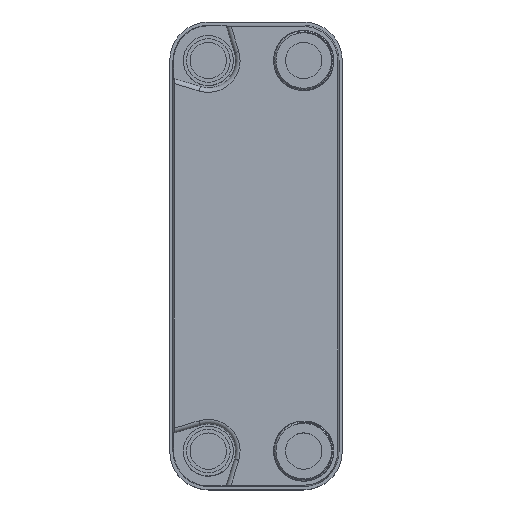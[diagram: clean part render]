
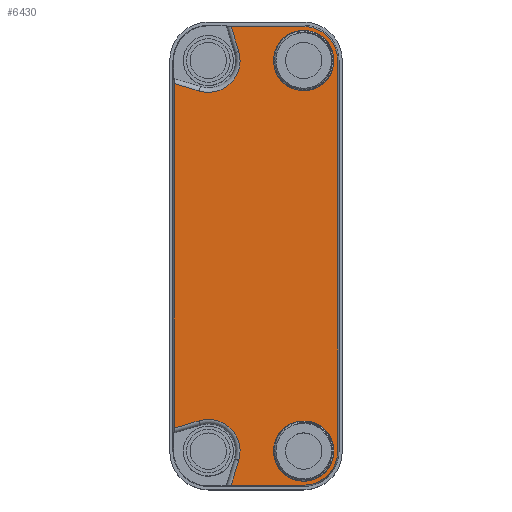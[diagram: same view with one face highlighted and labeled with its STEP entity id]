
A CAD part, top view. The second image highlights one B-rep face of the part: STEP entity #6430.
In plain terms, the highlighted planar face has unit normal (0, 0, 1).
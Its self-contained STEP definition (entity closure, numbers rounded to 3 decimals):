
#6283=CARTESIAN_POINT('',(-21.,83.891,38.));
#6284=DIRECTION('',(0.,0.,-1.));
#6285=DIRECTION('',(0.,1.,0.));
#6286=AXIS2_PLACEMENT_3D('',#6283,#6284,#6285);
#6287=PLANE('',#6286);
#6288=CARTESIAN_POINT('',(21.,98.891,38.));
#6289=VERTEX_POINT('',#6288);
#6290=CARTESIAN_POINT('',(-10.911,98.891,38.));
#6291=VERTEX_POINT('',#6290);
#6292=CARTESIAN_POINT('',(21.,98.891,38.));
#6293=DIRECTION('',(-1.,-0.,0.));
#6294=VECTOR('',#6293,31.911);
#6295=LINE('',#6292,#6294);
#6296=EDGE_CURVE('',#6289,#6291,#6295,.T.);
#6297=ORIENTED_EDGE('',*,*,#6296,.T.);
#6298=CARTESIAN_POINT('',(-7.6,87.944,38.));
#6299=VERTEX_POINT('',#6298);
#6300=CARTESIAN_POINT('',(-10.911,98.891,38.));
#6301=DIRECTION('',(0.29,-0.957,0.));
#6302=VECTOR('',#6301,11.437);
#6303=LINE('',#6300,#6302);
#6304=EDGE_CURVE('',#6291,#6299,#6303,.T.);
#6305=ORIENTED_EDGE('',*,*,#6304,.T.);
#6306=CARTESIAN_POINT('',(-25.053,70.491,38.));
#6307=VERTEX_POINT('',#6306);
#6308=CARTESIAN_POINT('',(-21.,83.891,38.));
#6309=DIRECTION('',(0.,0.,-1.));
#6310=DIRECTION('',(-1.,0.,0.));
#6311=AXIS2_PLACEMENT_3D('',#6308,#6309,#6310);
#6312=CIRCLE('',#6311,14.);
#6313=EDGE_CURVE('',#6299,#6307,#6312,.T.);
#6314=ORIENTED_EDGE('',*,*,#6313,.T.);
#6315=CARTESIAN_POINT('',(-36.,73.802,38.));
#6316=VERTEX_POINT('',#6315);
#6317=CARTESIAN_POINT('',(-25.053,70.491,38.));
#6318=DIRECTION('',(-0.957,0.29,0.));
#6319=VECTOR('',#6318,11.437);
#6320=LINE('',#6317,#6319);
#6321=EDGE_CURVE('',#6307,#6316,#6320,.T.);
#6322=ORIENTED_EDGE('',*,*,#6321,.T.);
#6323=CARTESIAN_POINT('',(-36.,-78.019,38.));
#6324=VERTEX_POINT('',#6323);
#6325=CARTESIAN_POINT('',(-36.,73.802,38.));
#6326=DIRECTION('',(-0.,-1.,-0.));
#6327=VECTOR('',#6326,151.821);
#6328=LINE('',#6325,#6327);
#6329=EDGE_CURVE('',#6316,#6324,#6328,.T.);
#6330=ORIENTED_EDGE('',*,*,#6329,.T.);
#6331=CARTESIAN_POINT('',(-25.053,-74.708,38.));
#6332=VERTEX_POINT('',#6331);
#6333=CARTESIAN_POINT('',(-36.,-78.019,38.));
#6334=DIRECTION('',(0.957,0.29,0.));
#6335=VECTOR('',#6334,11.437);
#6336=LINE('',#6333,#6335);
#6337=EDGE_CURVE('',#6324,#6332,#6336,.T.);
#6338=ORIENTED_EDGE('',*,*,#6337,.T.);
#6339=CARTESIAN_POINT('',(-7.6,-92.162,38.));
#6340=VERTEX_POINT('',#6339);
#6341=CARTESIAN_POINT('',(-21.,-88.109,38.));
#6342=DIRECTION('',(0.,0.,-1.));
#6343=DIRECTION('',(-1.,0.,0.));
#6344=AXIS2_PLACEMENT_3D('',#6341,#6342,#6343);
#6345=CIRCLE('',#6344,14.);
#6346=EDGE_CURVE('',#6332,#6340,#6345,.T.);
#6347=ORIENTED_EDGE('',*,*,#6346,.T.);
#6348=CARTESIAN_POINT('',(-10.911,-103.109,38.));
#6349=VERTEX_POINT('',#6348);
#6350=CARTESIAN_POINT('',(-7.6,-92.162,38.));
#6351=DIRECTION('',(-0.29,-0.957,0.));
#6352=VECTOR('',#6351,11.437);
#6353=LINE('',#6350,#6352);
#6354=EDGE_CURVE('',#6340,#6349,#6353,.T.);
#6355=ORIENTED_EDGE('',*,*,#6354,.T.);
#6356=CARTESIAN_POINT('',(21.,-103.109,38.));
#6357=VERTEX_POINT('',#6356);
#6358=CARTESIAN_POINT('',(-10.911,-103.109,38.));
#6359=DIRECTION('',(1.,0.,-0.));
#6360=VECTOR('',#6359,31.911);
#6361=LINE('',#6358,#6360);
#6362=EDGE_CURVE('',#6349,#6357,#6361,.T.);
#6363=ORIENTED_EDGE('',*,*,#6362,.T.);
#6364=CARTESIAN_POINT('',(36.,-88.109,38.));
#6365=VERTEX_POINT('',#6364);
#6366=CARTESIAN_POINT('',(21.,-88.109,38.));
#6367=DIRECTION('',(-0.,-0.,1.));
#6368=DIRECTION('',(-1.,0.,0.));
#6369=AXIS2_PLACEMENT_3D('',#6366,#6367,#6368);
#6370=CIRCLE('',#6369,15.);
#6371=EDGE_CURVE('',#6357,#6365,#6370,.T.);
#6372=ORIENTED_EDGE('',*,*,#6371,.T.);
#6373=CARTESIAN_POINT('',(36.,83.891,38.));
#6374=VERTEX_POINT('',#6373);
#6375=CARTESIAN_POINT('',(36.,-88.109,38.));
#6376=DIRECTION('',(0.,1.,0.));
#6377=VECTOR('',#6376,172.);
#6378=LINE('',#6375,#6377);
#6379=EDGE_CURVE('',#6365,#6374,#6378,.T.);
#6380=ORIENTED_EDGE('',*,*,#6379,.T.);
#6381=CARTESIAN_POINT('',(21.,83.891,38.));
#6382=DIRECTION('',(-0.,-0.,1.));
#6383=DIRECTION('',(-1.,0.,0.));
#6384=AXIS2_PLACEMENT_3D('',#6381,#6382,#6383);
#6385=CIRCLE('',#6384,15.);
#6386=EDGE_CURVE('',#6374,#6289,#6385,.T.);
#6387=ORIENTED_EDGE('',*,*,#6386,.T.);
#6388=EDGE_LOOP('',(#6297,#6305,#6314,#6322,#6330,#6338,#6347,#6355,#6363,#6372,#6380,#6387));
#6389=FACE_BOUND('',#6388,.T.);
#6390=CARTESIAN_POINT('',(32.,-88.109,38.));
#6391=VERTEX_POINT('',#6390);
#6392=CARTESIAN_POINT('',(21.,-77.109,38.));
#6393=VERTEX_POINT('',#6392);
#6394=CARTESIAN_POINT('',(21.,-88.109,38.));
#6395=DIRECTION('',(-0.,-0.,1.));
#6396=DIRECTION('',(0.,1.,0.));
#6397=AXIS2_PLACEMENT_3D('',#6394,#6395,#6396);
#6398=CIRCLE('',#6397,11.);
#6399=EDGE_CURVE('',#6391,#6393,#6398,.T.);
#6400=ORIENTED_EDGE('',*,*,#6399,.F.);
#6401=CARTESIAN_POINT('',(21.,-88.109,38.));
#6402=DIRECTION('',(-0.,-0.,1.));
#6403=DIRECTION('',(0.,1.,0.));
#6404=AXIS2_PLACEMENT_3D('',#6401,#6402,#6403);
#6405=CIRCLE('',#6404,11.);
#6406=EDGE_CURVE('',#6393,#6391,#6405,.T.);
#6407=ORIENTED_EDGE('',*,*,#6406,.F.);
#6408=EDGE_LOOP('',(#6400,#6407));
#6409=FACE_BOUND('',#6408,.T.);
#6410=CARTESIAN_POINT('',(32.,83.891,38.));
#6411=VERTEX_POINT('',#6410);
#6412=CARTESIAN_POINT('',(21.,94.891,38.));
#6413=VERTEX_POINT('',#6412);
#6414=CARTESIAN_POINT('',(21.,83.891,38.));
#6415=DIRECTION('',(-0.,-0.,1.));
#6416=DIRECTION('',(0.,1.,0.));
#6417=AXIS2_PLACEMENT_3D('',#6414,#6415,#6416);
#6418=CIRCLE('',#6417,11.);
#6419=EDGE_CURVE('',#6411,#6413,#6418,.T.);
#6420=ORIENTED_EDGE('',*,*,#6419,.F.);
#6421=CARTESIAN_POINT('',(21.,83.891,38.));
#6422=DIRECTION('',(-0.,-0.,1.));
#6423=DIRECTION('',(0.,1.,0.));
#6424=AXIS2_PLACEMENT_3D('',#6421,#6422,#6423);
#6425=CIRCLE('',#6424,11.);
#6426=EDGE_CURVE('',#6413,#6411,#6425,.T.);
#6427=ORIENTED_EDGE('',*,*,#6426,.F.);
#6428=EDGE_LOOP('',(#6420,#6427));
#6429=FACE_BOUND('',#6428,.T.);
#6430=ADVANCED_FACE('',(#6389,#6409,#6429),#6287,.F.);
